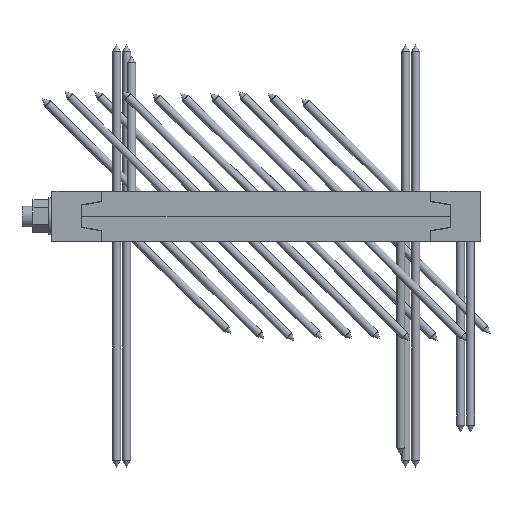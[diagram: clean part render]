
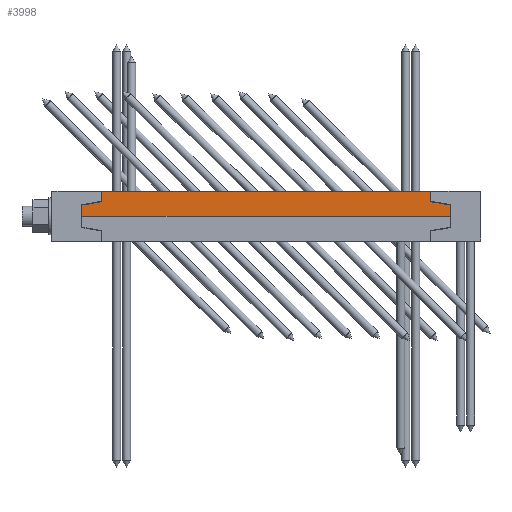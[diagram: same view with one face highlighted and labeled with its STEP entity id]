
A CAD part, left-side view. The second image highlights one B-rep face of the part: STEP entity #3998.
In plain terms, the highlighted planar face has unit normal (-1, 0, 0) as drawn and (1, 0, 0) by its records, which use the part's own axes.
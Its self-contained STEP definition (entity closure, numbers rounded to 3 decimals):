
#94=LINE('',#6406,#374);
#117=LINE('',#6453,#397);
#137=LINE('',#6496,#417);
#159=LINE('',#6541,#439);
#178=LINE('',#6596,#458);
#189=LINE('',#6684,#469);
#191=LINE('',#6688,#471);
#192=LINE('',#6689,#472);
#374=VECTOR('',#5116,1000.);
#397=VECTOR('',#5147,1000.);
#417=VECTOR('',#5177,1000.);
#439=VECTOR('',#5207,1000.);
#458=VECTOR('',#5254,1000.);
#469=VECTOR('',#5341,1000.);
#471=VECTOR('',#5345,1000.);
#472=VECTOR('',#5346,1000.);
#946=PLANE('',#4631);
#1359=ORIENTED_EDGE('',*,*,#2093,.T.);
#1360=ORIENTED_EDGE('',*,*,#2118,.T.);
#1361=ORIENTED_EDGE('',*,*,#2194,.T.);
#1362=ORIENTED_EDGE('',*,*,#2140,.F.);
#1363=ORIENTED_EDGE('',*,*,#2164,.F.);
#1364=ORIENTED_EDGE('',*,*,#2241,.F.);
#1365=ORIENTED_EDGE('',*,*,#2239,.F.);
#1366=ORIENTED_EDGE('',*,*,#2242,.T.);
#2093=EDGE_CURVE('',#2553,#2552,#94,.T.);
#2118=EDGE_CURVE('',#2552,#2572,#117,.T.);
#2140=EDGE_CURVE('',#2590,#2591,#137,.T.);
#2164=EDGE_CURVE('',#2609,#2590,#159,.T.);
#2194=EDGE_CURVE('',#2572,#2591,#178,.T.);
#2239=EDGE_CURVE('',#2670,#2671,#189,.T.);
#2241=EDGE_CURVE('',#2671,#2609,#191,.T.);
#2242=EDGE_CURVE('',#2670,#2553,#192,.T.);
#2552=VERTEX_POINT('',#6405);
#2553=VERTEX_POINT('',#6407);
#2572=VERTEX_POINT('',#6452);
#2590=VERTEX_POINT('',#6495);
#2591=VERTEX_POINT('',#6497);
#2609=VERTEX_POINT('',#6540);
#2670=VERTEX_POINT('',#6683);
#2671=VERTEX_POINT('',#6685);
#3097=EDGE_LOOP('',(#1359,#1360,#1361,#1362,#1363,#1364,#1365,#1366));
#3558=FACE_BOUND('',#3097,.T.);
#3998=ADVANCED_FACE('',(#3558),#946,.T.);
#4631=AXIS2_PLACEMENT_3D('',#6687,#5343,#5344);
#5116=DIRECTION('',(0.,0.985,0.174));
#5147=DIRECTION('',(0.,0.,1.));
#5177=DIRECTION('',(0.,0.,1.));
#5207=DIRECTION('',(0.,-0.985,0.174));
#5254=DIRECTION('',(0.,-1.,0.));
#5341=DIRECTION('',(0.,-1.,0.));
#5343=DIRECTION('',(1.,0.,0.));
#5344=DIRECTION('',(0.,0.,-1.));
#5345=DIRECTION('',(0.,0.,1.));
#5346=DIRECTION('',(0.,0.,1.));
#6405=CARTESIAN_POINT('',(150.,370.,14.));
#6406=CARTESIAN_POINT('',(150.,370.,14.));
#6407=CARTESIAN_POINT('',(150.,350.,10.473));
#6452=CARTESIAN_POINT('',(150.,370.,25.));
#6453=CARTESIAN_POINT('',(150.,370.,0.));
#6495=CARTESIAN_POINT('',(150.,0.,14.));
#6496=CARTESIAN_POINT('',(150.,0.,0.));
#6497=CARTESIAN_POINT('',(150.,0.,25.));
#6540=CARTESIAN_POINT('',(150.,20.,10.473));
#6541=CARTESIAN_POINT('',(150.,361.237,-49.696));
#6596=CARTESIAN_POINT('',(150.,370.,25.));
#6683=CARTESIAN_POINT('',(150.,350.,0.));
#6684=CARTESIAN_POINT('',(150.,370.,0.));
#6685=CARTESIAN_POINT('',(150.,20.,0.));
#6687=CARTESIAN_POINT('',(150.,370.,0.));
#6688=CARTESIAN_POINT('',(150.,20.,0.));
#6689=CARTESIAN_POINT('',(150.,350.,10.473));
